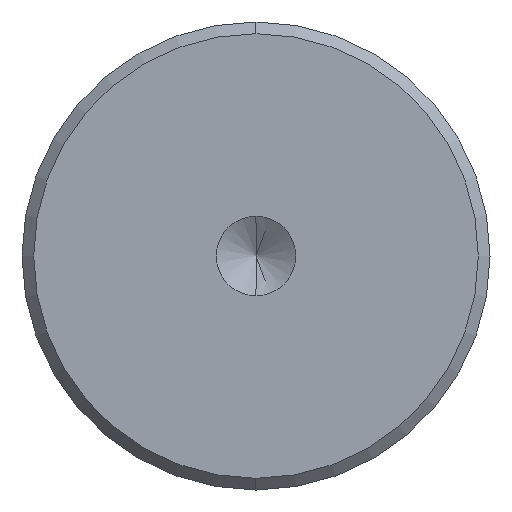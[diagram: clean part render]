
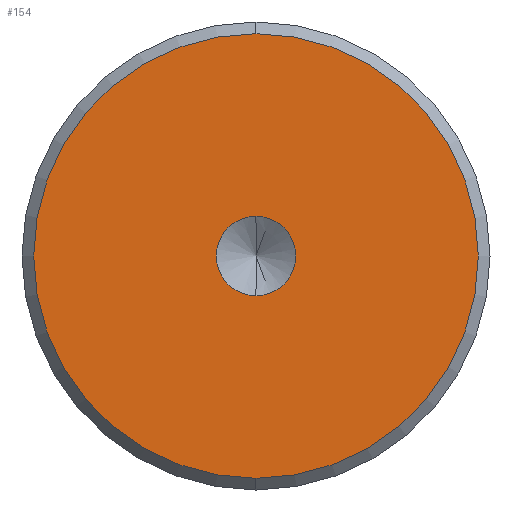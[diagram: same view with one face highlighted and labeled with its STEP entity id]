
A CAD part, left-side view. The second image highlights one B-rep face of the part: STEP entity #154.
In plain terms, the highlighted planar face has unit normal (-1, 0, 0).
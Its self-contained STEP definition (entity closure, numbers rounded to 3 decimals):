
#2 = CARTESIAN_POINT ( 'NONE',  ( 0., 0., 0. ) ) ;
#30 = AXIS2_PLACEMENT_3D ( 'NONE', #2, #158, #39 ) ;
#34 = DIRECTION ( 'NONE',  ( -1., 0., 0. ) ) ;
#35 = DIRECTION ( 'NONE',  ( -1., 0., 0. ) ) ;
#39 = DIRECTION ( 'NONE',  ( 0., 0., 1. ) ) ;
#43 = CARTESIAN_POINT ( 'NONE',  ( 0., 0., -19. ) ) ;
#49 = ORIENTED_EDGE ( 'NONE', *, *, #207, .T. ) ;
#63 = VERTEX_POINT ( 'NONE', #223 ) ;
#73 = DIRECTION ( 'NONE',  ( -1., 0., 0. ) ) ;
#90 = CIRCLE ( 'NONE', #360, 3.4 ) ;
#94 = EDGE_LOOP ( 'NONE', ( #321, #49 ) ) ;
#128 = ORIENTED_EDGE ( 'NONE', *, *, #147, .F. ) ;
#147 = EDGE_CURVE ( 'NONE', #204, #63, #90, .T. ) ;
#154 = ADVANCED_FACE ( 'NONE', ( #253, #437 ), #365, .T. ) ;
#158 = DIRECTION ( 'NONE',  ( -1., 0., 0. ) ) ;
#190 = DIRECTION ( 'NONE',  ( 0., 0., 1. ) ) ;
#204 = VERTEX_POINT ( 'NONE', #331 ) ;
#207 = EDGE_CURVE ( 'NONE', #449, #263, #434, .T. ) ;
#223 = CARTESIAN_POINT ( 'NONE',  ( 0., 0., -3.4 ) ) ;
#225 = CARTESIAN_POINT ( 'NONE',  ( 0., 0., 0. ) ) ;
#228 = AXIS2_PLACEMENT_3D ( 'NONE', #292, #298, #288 ) ;
#250 = CIRCLE ( 'NONE', #363, 19. ) ;
#253 = FACE_OUTER_BOUND ( 'NONE', #94, .T. ) ;
#263 = VERTEX_POINT ( 'NONE', #43 ) ;
#278 = EDGE_LOOP ( 'NONE', ( #128, #371 ) ) ;
#288 = DIRECTION ( 'NONE',  ( 0., 0., 1. ) ) ;
#292 = CARTESIAN_POINT ( 'NONE',  ( 0., 0., 0. ) ) ;
#296 = DIRECTION ( 'NONE',  ( 0., 0., 1. ) ) ;
#298 = DIRECTION ( 'NONE',  ( -1., 0., 0. ) ) ;
#304 = AXIS2_PLACEMENT_3D ( 'NONE', #468, #73, #296 ) ;
#321 = ORIENTED_EDGE ( 'NONE', *, *, #379, .T. ) ;
#331 = CARTESIAN_POINT ( 'NONE',  ( 0., 0., 3.4 ) ) ;
#360 = AXIS2_PLACEMENT_3D ( 'NONE', #225, #35, #474 ) ;
#363 = AXIS2_PLACEMENT_3D ( 'NONE', #467, #34, #190 ) ;
#365 = PLANE ( 'NONE',  #228 ) ;
#371 = ORIENTED_EDGE ( 'NONE', *, *, #461, .F. ) ;
#379 = EDGE_CURVE ( 'NONE', #263, #449, #250, .T. ) ;
#389 = CIRCLE ( 'NONE', #30, 3.4 ) ;
#404 = CARTESIAN_POINT ( 'NONE',  ( 0., 0., 19. ) ) ;
#434 = CIRCLE ( 'NONE', #304, 19. ) ;
#437 = FACE_BOUND ( 'NONE', #278, .T. ) ;
#449 = VERTEX_POINT ( 'NONE', #404 ) ;
#461 = EDGE_CURVE ( 'NONE', #63, #204, #389, .T. ) ;
#467 = CARTESIAN_POINT ( 'NONE',  ( 0., 0., 0. ) ) ;
#468 = CARTESIAN_POINT ( 'NONE',  ( 0., 0., 0. ) ) ;
#474 = DIRECTION ( 'NONE',  ( 0., 0., 1. ) ) ;
